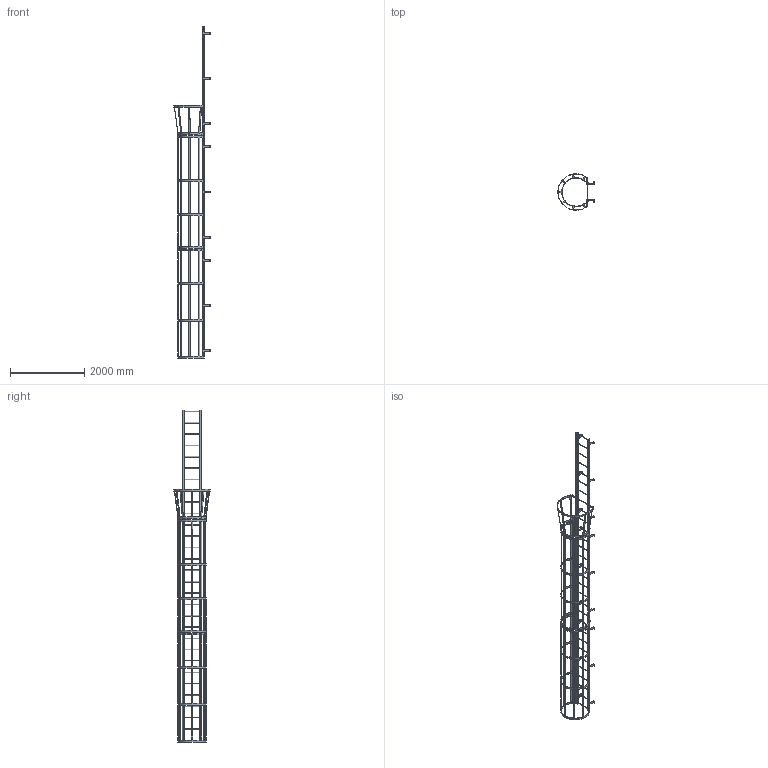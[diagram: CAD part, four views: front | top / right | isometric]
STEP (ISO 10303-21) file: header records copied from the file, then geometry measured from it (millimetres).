
FILE_DESCRIPTION(/* description */ (''),/* implementation_level */ '2;1');
FILE_NAME(/* name */ 'P:\MIKEL & KAREN\D0570195-16 F30SC SIMPLIFIED PART.stp',/* time_stamp */ '2018-07-03T08:10:12-04:00',/* author */ ('stephanie'),/* organization */ (''),/* preprocessor_version */ 'ST-DEVELOPER v16.1',/* originating_system */ 'Autodesk Inventor 2016',/* authorisation */ '');
FILE_SCHEMA (('AUTOMOTIVE_DESIGN { 1 0 10303 214 3 1 1 }'));
Length unit declared in the file: centimetre
Products named in the file (1): D0570195-16 F30SC SIMPLIFIED PART
Bounding box: 974.15 x 977.88 x 8915.4 mm (x, y, z)
Volume: 30929033.4 mm3; surface area: 10935997.8 mm2
Topology: 41 solids, 41 shells, 956 faces, 2900 edges, 1878 vertices
Faces by surface type: plane 642, cylinder 314
Full cylindrical faces by diameter (mm): 14.287 x22, 19.05 x30, 22.225 x60
Entity records: 32821 total; most frequent: ORIENTED_EDGE 5580, CARTESIAN_POINT 5459, DIRECTION 5412, EDGE_CURVE 2706, LINE 1914, VECTOR 1914, VERTEX_POINT 1796, AXIS2_PLACEMENT_3D 1749
